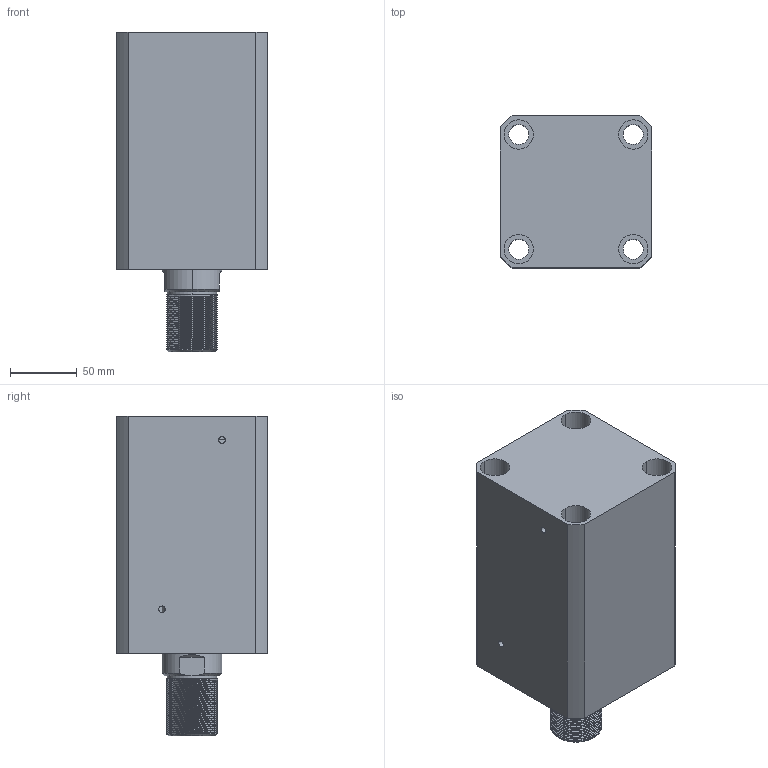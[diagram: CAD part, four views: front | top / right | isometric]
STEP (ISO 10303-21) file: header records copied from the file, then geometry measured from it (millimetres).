
FILE_DESCRIPTION (( 'STEP AP214' ), '1' );
FILE_NAME ('chtb-sdma80x100wasm.STEP', '2018-05-29T03:31:29', ( 'Windows' ), ( 'Microsoft' ), 'SwSTEP 2.0', 'SolidWorks 2015', '' );
FILE_SCHEMA (( 'AUTOMOTIVE_DESIGN' ));
Length unit declared in the file: millimetre
Products named in the file (4): CHTB-SD80QG; chtb-sdma80x100wasm; CHTB-SDMA80X100NBT; CHTB-SD80X100WHSG
Assembly tree (3 placements, depth 2):
  chtb-sdma80x100wasm
    CHTB-SD80QG
    CHTB-SD80X100WHSG
    CHTB-SDMA80X100NBT
Bounding box: 114 x 114 x 240 mm (x, y, z)
Volume: 1848622.1 mm3; surface area: 259899.8 mm2
Topology: 3 solids, 3 shells, 251 faces, 695 edges, 466 vertices
Faces by surface type: cylinder 163, plane 38, torus 18, bspline 16, cone 16
Entity records: 20277 total; most frequent: CARTESIAN_POINT 14301, ORIENTED_EDGE 1382, DIRECTION 1068, EDGE_CURVE 691, VERTEX_POINT 466, AXIS2_PLACEMENT_3D 433, EDGE_LOOP 289, ADVANCED_FACE 251
